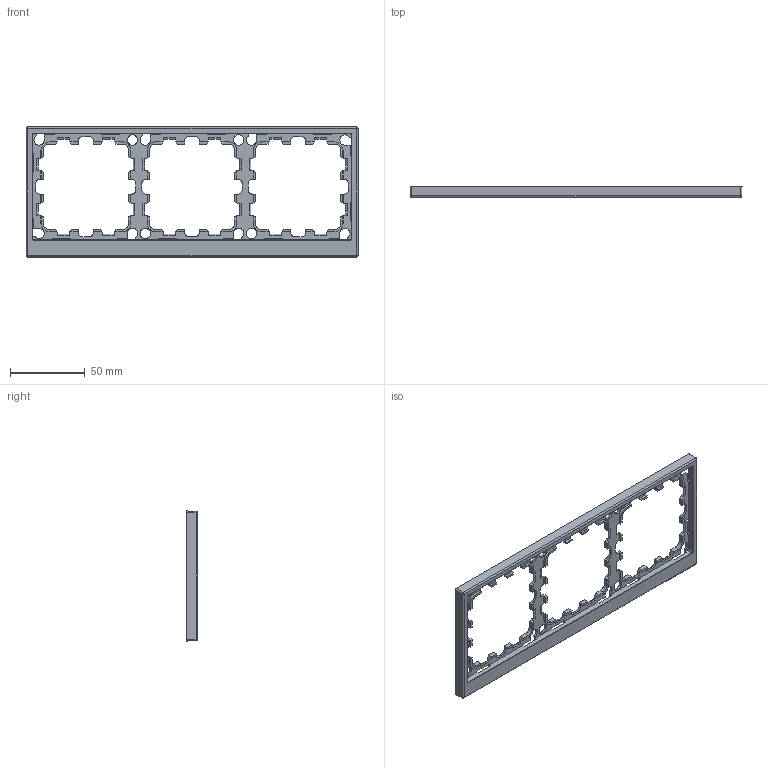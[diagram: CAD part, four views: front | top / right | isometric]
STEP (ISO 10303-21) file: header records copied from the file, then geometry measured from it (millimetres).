
FILE_DESCRIPTION (( 'STEP AP203' ), '1' );
FILE_NAME ('7000906.STEP', '2025-12-04T13:24:03', ( '' ), ( '' ), 'SwSTEP 2.0', 'SolidWorks 2022', '' );
FILE_SCHEMA (( 'CONFIG_CONTROL_DESIGN' ));
Length unit declared in the file: millimetre
Products named in the file (1): 7000906
Bounding box: 222 x 7.3 x 87 mm (x, y, z)
Volume: 20148.4 mm3; surface area: 30221.2 mm2
Topology: 1 solids, 1 shells, 578 faces, 1795 edges, 1186 vertices
Faces by surface type: plane 428, cylinder 112, cone 26, torus 4, bspline 4, sphere 4
Entity records: 20134 total; most frequent: CARTESIAN_POINT 3874, ORIENTED_EDGE 3582, DIRECTION 3169, EDGE_CURVE 1791, LINE 1499, VECTOR 1499, VERTEX_POINT 1186, AXIS2_PLACEMENT_3D 835
